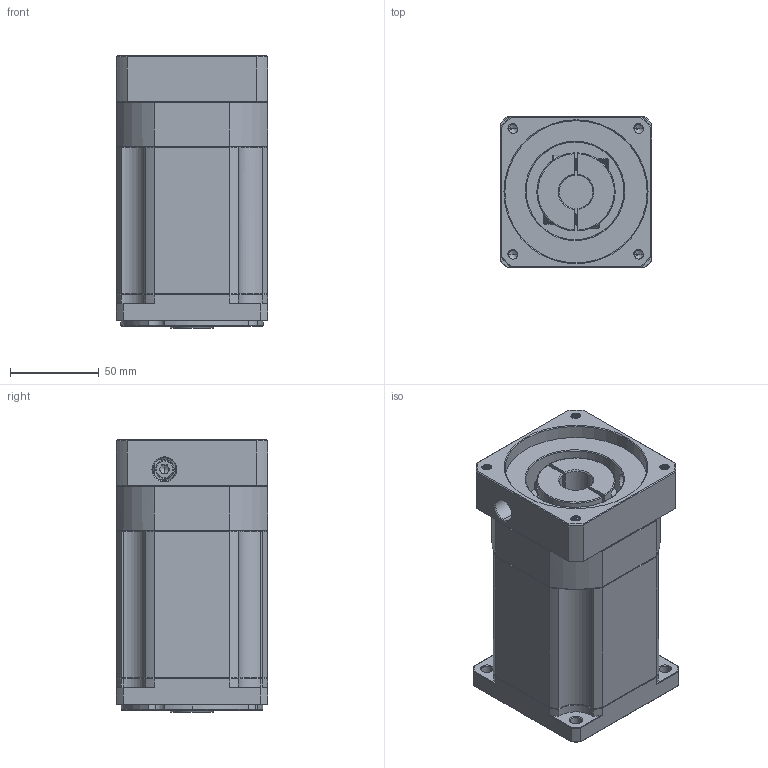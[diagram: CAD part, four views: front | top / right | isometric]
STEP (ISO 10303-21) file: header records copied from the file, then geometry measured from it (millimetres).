
FILE_DESCRIPTION (( 'STEP AP214' ), '1' );
FILE_NAME ('ZB090-K15-L3-P2-19-80-100-M6.step', '2023-08-18T12:19:56', ( '' ), ( '' ), 'SwSTEP 2.0', 'SolidWorks 2016', '' );
FILE_SCHEMA (( 'AUTOMOTIVE_DESIGN' ));
Length unit declared in the file: millimetre
Products named in the file (1): ZB090-K15-L3-P2-19-80-100-M6
Bounding box: 85 x 85 x 153 mm (x, y, z)
Volume: 884819.3 mm3; surface area: 99870 mm2
Topology: 4 solids, 5 shells, 2160 faces, 5733 edges, 3657 vertices
Faces by surface type: plane 1059, bspline 390, cylinder 358, cone 328, torus 25
Entity records: 114884 total; most frequent: CARTESIAN_POINT 40654, ORIENTED_EDGE 11426, DIRECTION 8976, EDGE_CURVE 5713, LINE 3668, VECTOR 3668, VERTEX_POINT 3657, AXIS2_PLACEMENT_3D 2654
